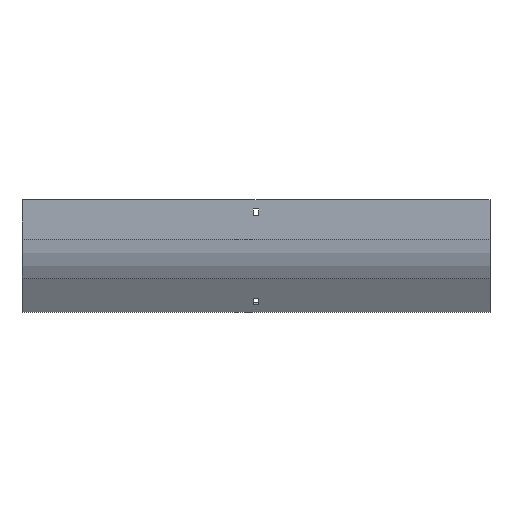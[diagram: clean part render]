
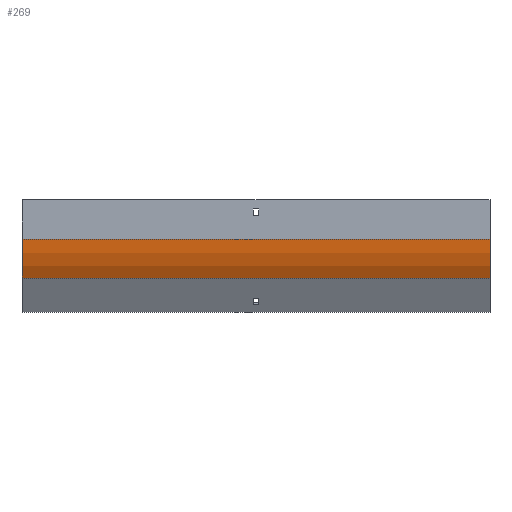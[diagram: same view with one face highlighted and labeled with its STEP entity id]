
A CAD part, front view. The second image highlights one B-rep face of the part: STEP entity #269.
In plain terms, the highlighted cylindrical face has radius 100 mm (diameter 200 mm), a partial arc.
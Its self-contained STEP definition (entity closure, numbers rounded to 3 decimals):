
#155 = DIRECTION ( 'NONE',  ( 1., 0., 0. ) ) ;
#168 = CARTESIAN_POINT ( 'NONE',  ( 302., -79., -51.168 ) ) ;
#195 = ORIENTED_EDGE ( 'NONE', *, *, #466, .F. ) ;
#202 = CARTESIAN_POINT ( 'NONE',  ( 302., -65.603, -101.168 ) ) ;
#227 = EDGE_LOOP ( 'NONE', ( #241, #195, #1630, #1342 ) ) ;
#230 = LINE ( 'NONE', #401, #1703 ) ;
#236 = VERTEX_POINT ( 'NONE', #202 ) ;
#241 = ORIENTED_EDGE ( 'NONE', *, *, #365, .T. ) ;
#269 = ADVANCED_FACE ( 'NONE', ( #489 ), #1086, .T. ) ;
#317 = CARTESIAN_POINT ( 'NONE',  ( 302., 21., -51.168 ) ) ;
#365 = EDGE_CURVE ( 'NONE', #1018, #746, #1868, .T. ) ;
#401 = CARTESIAN_POINT ( 'NONE',  ( 302., -79., -51.168 ) ) ;
#466 = EDGE_CURVE ( 'NONE', #236, #746, #1217, .T. ) ;
#489 = FACE_OUTER_BOUND ( 'NONE', #227, .T. ) ;
#547 = VERTEX_POINT ( 'NONE', #168 ) ;
#576 = AXIS2_PLACEMENT_3D ( 'NONE', #1924, #586, #703 ) ;
#586 = DIRECTION ( 'NONE',  ( 1., 0., 0. ) ) ;
#610 = CIRCLE ( 'NONE', #1843, 100. ) ;
#627 = CARTESIAN_POINT ( 'NONE',  ( 302., -65.603, -101.168 ) ) ;
#703 = DIRECTION ( 'NONE',  ( 0., 0., 1. ) ) ;
#746 = VERTEX_POINT ( 'NONE', #1921 ) ;
#749 = DIRECTION ( 'NONE',  ( 0., 0., 1. ) ) ;
#799 = VECTOR ( 'NONE', #1196, 1000. ) ;
#923 = CARTESIAN_POINT ( 'NONE',  ( 302., 21., -51.168 ) ) ;
#1018 = VERTEX_POINT ( 'NONE', #1444 ) ;
#1074 = DIRECTION ( 'NONE',  ( -1., 0., 0. ) ) ;
#1086 = CYLINDRICAL_SURFACE ( 'NONE', #1300, 100. ) ;
#1196 = DIRECTION ( 'NONE',  ( -1., 0., 0. ) ) ;
#1217 = LINE ( 'NONE', #627, #799 ) ;
#1252 = DIRECTION ( 'NONE',  ( -1., 0., 0. ) ) ;
#1300 = AXIS2_PLACEMENT_3D ( 'NONE', #923, #1074, #1530 ) ;
#1342 = ORIENTED_EDGE ( 'NONE', *, *, #1950, .T. ) ;
#1444 = CARTESIAN_POINT ( 'NONE',  ( -302., -79., -51.168 ) ) ;
#1497 = EDGE_CURVE ( 'NONE', #547, #236, #610, .T. ) ;
#1530 = DIRECTION ( 'NONE',  ( 0., 0., 1. ) ) ;
#1630 = ORIENTED_EDGE ( 'NONE', *, *, #1497, .F. ) ;
#1703 = VECTOR ( 'NONE', #1252, 1000. ) ;
#1843 = AXIS2_PLACEMENT_3D ( 'NONE', #317, #155, #749 ) ;
#1868 = CIRCLE ( 'NONE', #576, 100. ) ;
#1921 = CARTESIAN_POINT ( 'NONE',  ( -302., -65.603, -101.168 ) ) ;
#1924 = CARTESIAN_POINT ( 'NONE',  ( -302., 21., -51.168 ) ) ;
#1950 = EDGE_CURVE ( 'NONE', #547, #1018, #230, .T. ) ;
